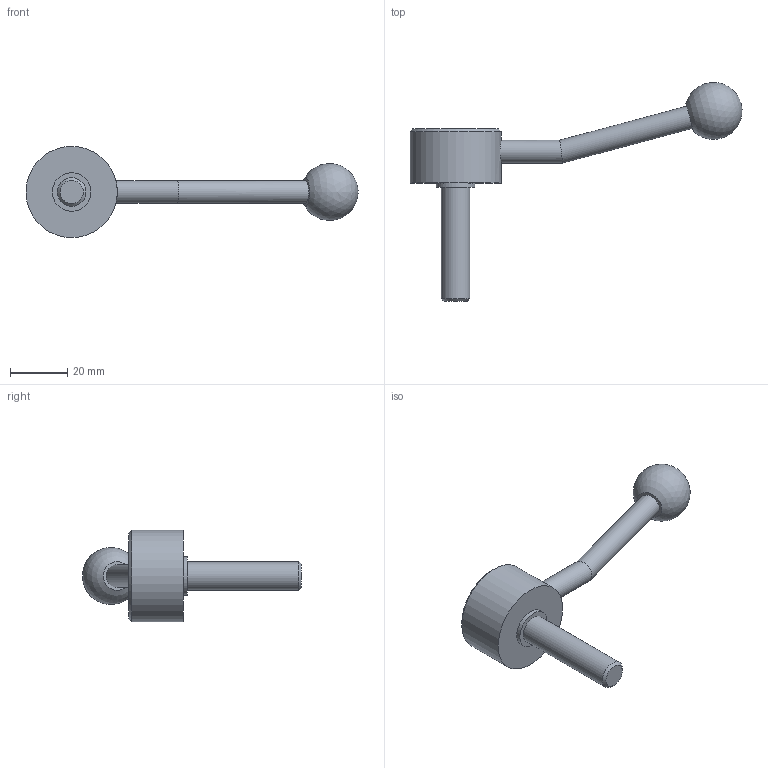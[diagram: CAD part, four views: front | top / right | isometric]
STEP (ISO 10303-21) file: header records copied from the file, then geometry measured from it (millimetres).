
FILE_DESCRIPTION( ( 'STEP AP203' ), '1' );
FILE_NAME( 'C:/Temp/Ganter_Step_05_03_2020/data/2_1/gn_125/gn_125_ms/gn_125_ms_e/Flat Adjustable Lever GN 125-32-M10-40-E.stp', '2020-03-05T11:00:56', ( 'License CC BY-ND 4.0' ), ( 'CADENAS' ), ' ', 'PARTsolutions', ' ' );
FILE_SCHEMA( ( 'CONFIG_CONTROL_DESIGN' ) );
Length unit declared in the file: millimetre
Products named in the file (1): _Flat Adjustable Lever GN 125-32-M10-40-E
Bounding box: 116.32 x 76.72 x 32 mm (x, y, z)
Volume: 26017 mm3; surface area: 7632.8 mm2
Topology: 1 solids, 1 shells, 15 faces, 26 edges, 17 vertices
Faces by surface type: cylinder 6, plane 6, cone 2, sphere 1
Full cylindrical faces by diameter (mm): 8 x2, 10 x1, 13.5 x1, 22 x1, 32 x1
Entity records: 404 total; most frequent: CARTESIAN_POINT 110, DIRECTION 58, AXIS2_PLACEMENT_3D 29, EDGE_LOOP 28, ORIENTED_EDGE 28, FACE_OUTER_BOUND 21, ADVANCED_FACE 15, VERTEX_POINT 15
